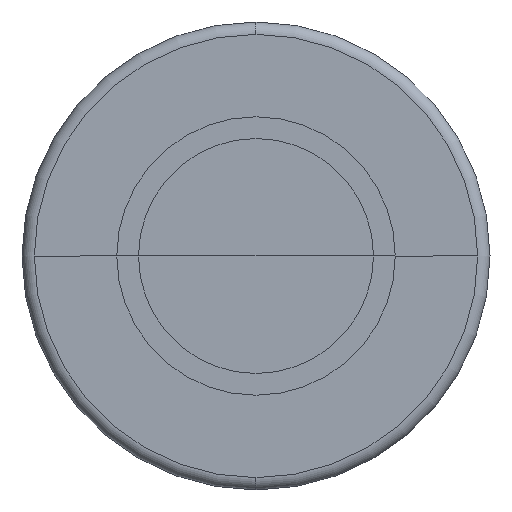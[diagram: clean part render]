
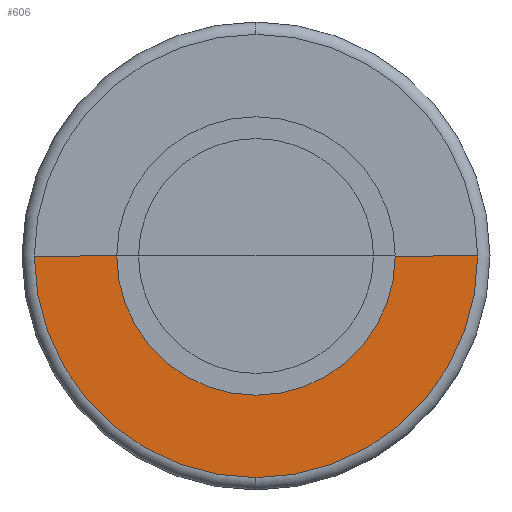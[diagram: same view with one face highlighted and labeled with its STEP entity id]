
A CAD part, left-side view. The second image highlights one B-rep face of the part: STEP entity #606.
In plain terms, the highlighted planar face has unit normal (-1, 0, 0).
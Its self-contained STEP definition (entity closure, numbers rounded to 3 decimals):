
#1 = EDGE_CURVE ( 'NONE', #275, #974, #357, .T. ) ;
#2 = CARTESIAN_POINT ( 'NONE',  ( -29.4, 0., 0. ) ) ;
#107 = LINE ( 'NONE', #502, #307 ) ;
#109 = VERTEX_POINT ( 'NONE', #792 ) ;
#141 = AXIS2_PLACEMENT_3D ( 'NONE', #385, #720, #879 ) ;
#167 = AXIS2_PLACEMENT_3D ( 'NONE', #2, #660, #579 ) ;
#176 = CIRCLE ( 'NONE', #919, 11.29 ) ;
#232 = FACE_OUTER_BOUND ( 'NONE', #988, .T. ) ;
#240 = DIRECTION ( 'NONE',  ( 0., -1., 0. ) ) ;
#256 = CARTESIAN_POINT ( 'NONE',  ( -29.4, 0., 0. ) ) ;
#275 = VERTEX_POINT ( 'NONE', #995 ) ;
#280 = VECTOR ( 'NONE', #583, 1000. ) ;
#307 = VECTOR ( 'NONE', #435, 1000. ) ;
#332 = ORIENTED_EDGE ( 'NONE', *, *, #822, .T. ) ;
#354 = AXIS2_PLACEMENT_3D ( 'NONE', #725, #1055, #240 ) ;
#357 = LINE ( 'NONE', #743, #280 ) ;
#366 = CIRCLE ( 'NONE', #167, 17.975 ) ;
#379 = ORIENTED_EDGE ( 'NONE', *, *, #674, .T. ) ;
#385 = CARTESIAN_POINT ( 'NONE',  ( -29.4, 0., 0. ) ) ;
#418 = CIRCLE ( 'NONE', #354, 17.975 ) ;
#435 = DIRECTION ( 'NONE',  ( 0., 1., 0. ) ) ;
#443 = VERTEX_POINT ( 'NONE', #816 ) ;
#489 = DIRECTION ( 'NONE',  ( 0., -1., 0. ) ) ;
#496 = CARTESIAN_POINT ( 'NONE',  ( -29.4, -11.29, 0. ) ) ;
#502 = CARTESIAN_POINT ( 'NONE',  ( -29.4, 11.29, 0. ) ) ;
#579 = DIRECTION ( 'NONE',  ( 0., -1., 0. ) ) ;
#583 = DIRECTION ( 'NONE',  ( 0., 1., 0. ) ) ;
#606 = ADVANCED_FACE ( 'NONE', ( #232 ), #1039, .T. ) ;
#660 = DIRECTION ( 'NONE',  ( -1., 0., 0. ) ) ;
#674 = EDGE_CURVE ( 'NONE', #1051, #109, #418, .T. ) ;
#719 = EDGE_CURVE ( 'NONE', #974, #443, #176, .T. ) ;
#720 = DIRECTION ( 'NONE',  ( -1., 0., 0. ) ) ;
#725 = CARTESIAN_POINT ( 'NONE',  ( -29.4, 0., 0. ) ) ;
#743 = CARTESIAN_POINT ( 'NONE',  ( -29.4, -17.975, 0. ) ) ;
#792 = CARTESIAN_POINT ( 'NONE',  ( -29.4, 0., -17.975 ) ) ;
#816 = CARTESIAN_POINT ( 'NONE',  ( -29.4, 11.29, 0. ) ) ;
#822 = EDGE_CURVE ( 'NONE', #109, #275, #366, .T. ) ;
#864 = ORIENTED_EDGE ( 'NONE', *, *, #895, .T. ) ;
#866 = CARTESIAN_POINT ( 'NONE',  ( -29.4, 17.975, 0. ) ) ;
#879 = DIRECTION ( 'NONE',  ( 0., 1., 0. ) ) ;
#895 = EDGE_CURVE ( 'NONE', #443, #1051, #107, .T. ) ;
#902 = DIRECTION ( 'NONE',  ( 1., 0., 0. ) ) ;
#906 = ORIENTED_EDGE ( 'NONE', *, *, #719, .T. ) ;
#919 = AXIS2_PLACEMENT_3D ( 'NONE', #256, #902, #489 ) ;
#974 = VERTEX_POINT ( 'NONE', #496 ) ;
#988 = EDGE_LOOP ( 'NONE', ( #864, #379, #332, #1033, #906 ) ) ;
#995 = CARTESIAN_POINT ( 'NONE',  ( -29.4, -17.975, 0. ) ) ;
#1033 = ORIENTED_EDGE ( 'NONE', *, *, #1, .T. ) ;
#1039 = PLANE ( 'NONE',  #141 ) ;
#1051 = VERTEX_POINT ( 'NONE', #866 ) ;
#1055 = DIRECTION ( 'NONE',  ( -1., 0., 0. ) ) ;
